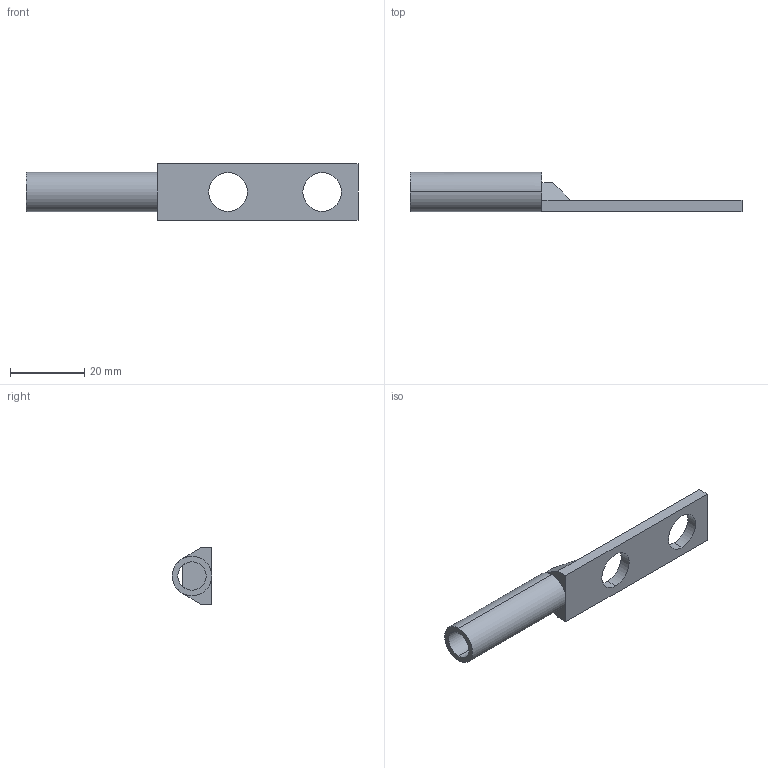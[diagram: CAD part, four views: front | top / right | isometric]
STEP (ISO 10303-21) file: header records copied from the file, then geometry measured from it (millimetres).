
FILE_DESCRIPTION (( 'STEP AP214' ), '1' );
FILE_NAME ('dgcl22.STEP', '2008-01-09T19:38:11', ( '' ), ( '' ), 'SwSTEP 2.0', 'SolidWorks 2007', '' );
FILE_SCHEMA (( 'AUTOMOTIVE_DESIGN' ));
Length unit declared in the file: inch
Products named in the file (1): dgcl22
Bounding box: 89.53 x 10.67 x 15.24 mm (x, y, z)
Volume: 3873 mm3; surface area: 4109.2 mm2
Topology: 1 solids, 1 shells, 22 faces, 54 edges, 33 vertices
Faces by surface type: plane 14, cylinder 8
Entity records: 686 total; most frequent: DIRECTION 121, CARTESIAN_POINT 110, ORIENTED_EDGE 108, EDGE_CURVE 54, AXIS2_PLACEMENT_3D 44, VERTEX_POINT 33, VECTOR 33, LINE 33
